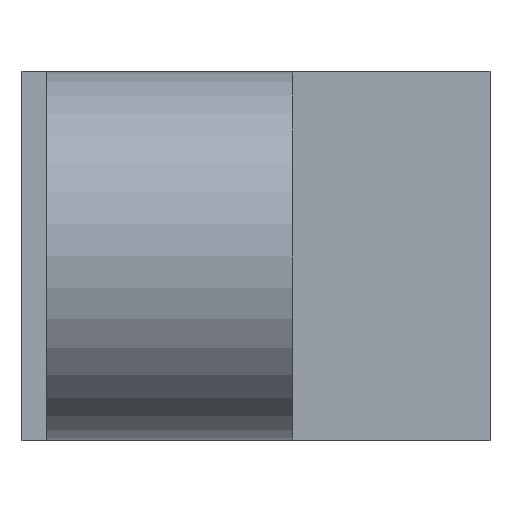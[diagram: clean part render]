
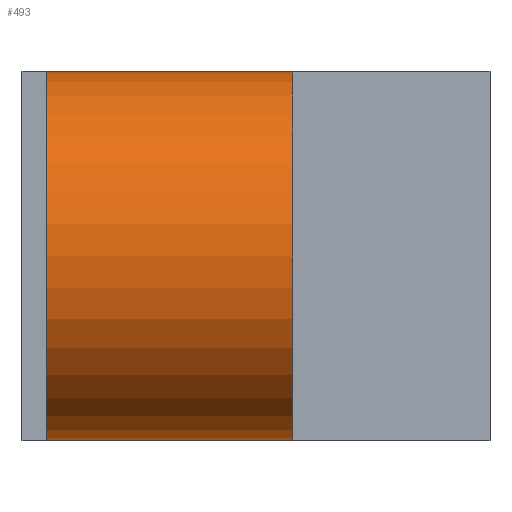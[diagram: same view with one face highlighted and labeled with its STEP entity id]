
A CAD part, left-side view. The second image highlights one B-rep face of the part: STEP entity #493.
In plain terms, the highlighted cylindrical face has radius 7.5 mm (diameter 15 mm), a partial arc.
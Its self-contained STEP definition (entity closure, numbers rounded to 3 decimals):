
#22=CYLINDRICAL_SURFACE('',#558,7.5);
#41=CIRCLE('',#546,7.5);
#45=CIRCLE('',#559,7.5);
#68=FACE_OUTER_BOUND('',#96,.T.);
#96=EDGE_LOOP('',(#442,#443,#444,#445));
#114=LINE('',#733,#165);
#149=LINE('',#836,#200);
#165=VECTOR('',#584,10.);
#200=VECTOR('',#691,10.);
#214=VERTEX_POINT('',#730);
#215=VERTEX_POINT('',#732);
#243=VERTEX_POINT('',#810);
#247=VERTEX_POINT('',#835);
#262=EDGE_CURVE('',#214,#215,#114,.T.);
#301=EDGE_CURVE('',#215,#243,#41,.T.);
#314=EDGE_CURVE('',#247,#243,#149,.T.);
#316=EDGE_CURVE('',#214,#247,#45,.T.);
#442=ORIENTED_EDGE('',*,*,#316,.T.);
#443=ORIENTED_EDGE('',*,*,#314,.T.);
#444=ORIENTED_EDGE('',*,*,#301,.F.);
#445=ORIENTED_EDGE('',*,*,#262,.F.);
#493=ADVANCED_FACE('',(#68),#22,.T.);
#546=AXIS2_PLACEMENT_3D('',#811,#658,#659);
#558=AXIS2_PLACEMENT_3D('',#838,#693,#694);
#559=AXIS2_PLACEMENT_3D('',#839,#695,#696);
#584=DIRECTION('',(0.,1.,0.));
#658=DIRECTION('center_axis',(0.,1.,0.));
#659=DIRECTION('ref_axis',(0.,0.,-1.));
#691=DIRECTION('',(0.,1.,0.));
#693=DIRECTION('center_axis',(0.,1.,0.));
#694=DIRECTION('ref_axis',(0.,0.,-1.));
#695=DIRECTION('center_axis',(0.,1.,0.));
#696=DIRECTION('ref_axis',(0.,0.,-1.));
#730=CARTESIAN_POINT('',(-35.,0.,-7.5));
#732=CARTESIAN_POINT('',(-35.,10.,-7.5));
#733=CARTESIAN_POINT('',(-35.,0.,-7.5));
#810=CARTESIAN_POINT('',(-35.,10.,7.5));
#811=CARTESIAN_POINT('Origin',(-35.,10.,0.));
#835=CARTESIAN_POINT('',(-35.,0.,7.5));
#836=CARTESIAN_POINT('',(-35.,0.,7.5));
#838=CARTESIAN_POINT('Origin',(-35.,0.,0.));
#839=CARTESIAN_POINT('Origin',(-35.,0.,0.));
